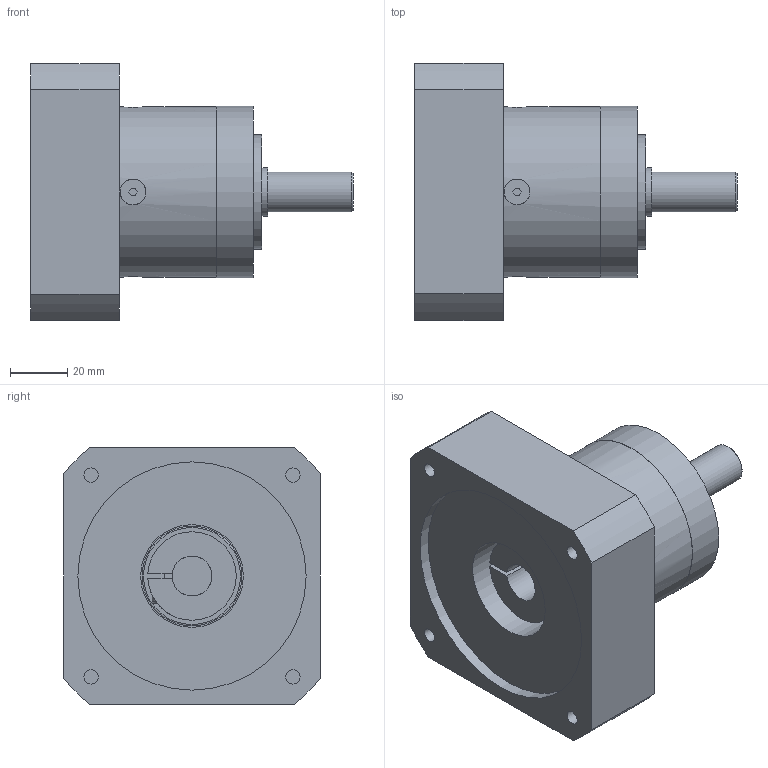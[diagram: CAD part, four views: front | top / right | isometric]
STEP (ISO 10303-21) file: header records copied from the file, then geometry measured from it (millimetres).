
FILE_DESCRIPTION(/* description */ (''),/* implementation_level */ '2;1');
FILE_NAME(/* name */ 'D:\InventorWorkspace2017\CAD\Projekte_EDEM\HLR\Zubehörteile\PE3-005-16M080_100_14_30.stp',/* time_stamp */ '2019-02-13T12:05:30+01:00',/* author */ ('544672'),/* organization */ (''),/* preprocessor_version */ 'ST-DEVELOPER v16.5',/* originating_system */ 'Autodesk Inventor 2017',/* authorisation */ '');
FILE_SCHEMA (('AUTOMOTIVE_DESIGN { 1 0 10303 214 3 1 1 }'));
Length unit declared in the file: millimetre
Products named in the file (1): PLE060-1-Stuf-14/30/80/100_SMH82
Bounding box: 113 x 90 x 90 mm (x, y, z)
Volume: 352211 mm3; surface area: 44900 mm2
Topology: 1 solids, 1 shells, 110 faces, 236 edges, 157 vertices
Faces by surface type: plane 77, cylinder 30, torus 2, cone 1
Full cylindrical faces by diameter (mm): 4.2 x4, 5 x4, 7 x1, 8 x1, 9 x4, 14 x2, 17 x1, 19 x1, 35 x1, 36 x1, 40 x1, 59.9 x1, 60 x1, 80 x1
Entity records: 3036 total; most frequent: CARTESIAN_POINT 629, DIRECTION 477, ORIENTED_EDGE 400, EDGE_CURVE 200, AXIS2_PLACEMENT_3D 171, EDGE_LOOP 167, VERTEX_POINT 149, LINE 135
